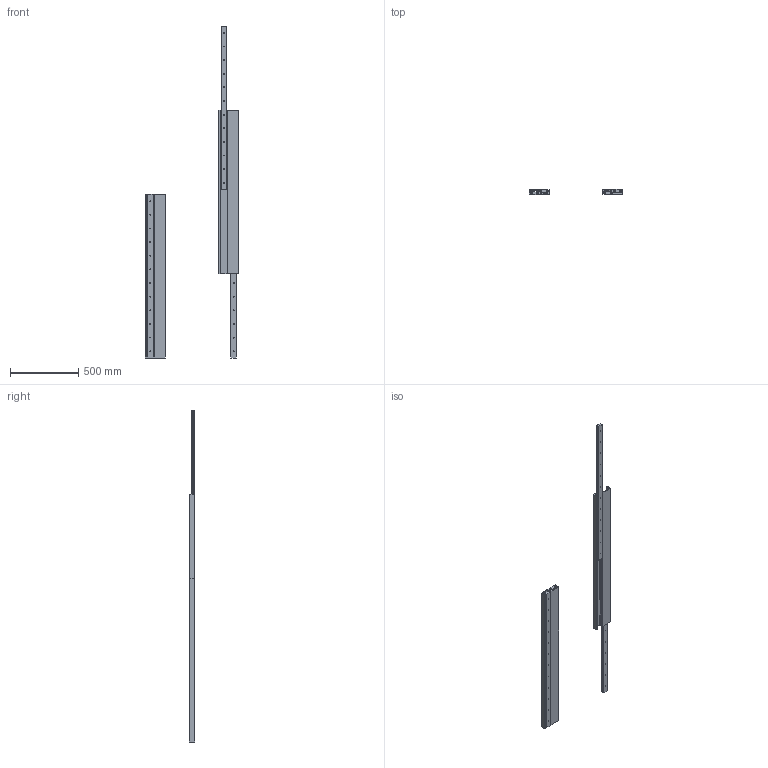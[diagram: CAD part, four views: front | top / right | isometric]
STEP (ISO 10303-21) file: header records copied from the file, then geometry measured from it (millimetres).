
FILE_DESCRIPTION((''),'2;1');
FILE_NAME('D:\01 WORK\DIST\02172A-Drawings for website\4140\STEP\4140-0120.stp','2008-10-24T11:44:05',('jtaylor'),(''),'Autodesk Inventor 2009','Autodesk Inventor 2009','');
FILE_SCHEMA(('AUTOMOTIVE_DESIGN { 1 0 10303 214 1 1 1 1 }'));
Length unit declared in the file: millimetre
Products named in the file (3): 4140-0120; 4140-0120 IM; 4140-0120 OM
Assembly tree (6 placements, depth 2):
  4140-0120
    4140-0120 IM  x4
    4140-0120 OM  x2
Bounding box: 689 x 38 x 2435 mm (x, y, z)
Volume: 8716722.7 mm3; surface area: 1763876 mm2
Topology: 6 solids, 6 shells, 156 faces, 480 edges, 336 vertices
Faces by surface type: plane 68, bspline 48, cylinder 40
Entity records: 2085 total; most frequent: CARTESIAN_POINT 517, DIRECTION 310, ORIENTED_EDGE 288, EDGE_CURVE 144, AXIS2_PLACEMENT_3D 113, VERTEX_POINT 104, EDGE_LOOP 92, VECTOR 84
